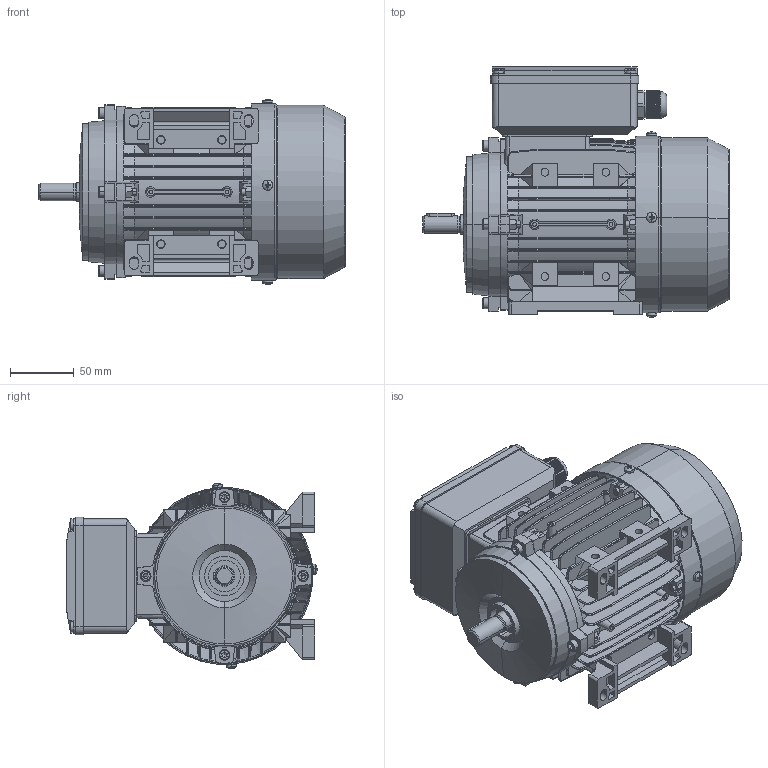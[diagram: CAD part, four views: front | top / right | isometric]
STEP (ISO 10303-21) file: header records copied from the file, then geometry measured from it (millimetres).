
FILE_DESCRIPTION (( 'STEP AP214' ), '1' );
FILE_NAME ('BMM0055.07C203.11.step', '2020-04-23T12:31:25', ( '' ), ( '' ), 'SwSTEP 2.0', 'SolidWorks 2019', '' );
FILE_SCHEMA (( 'AUTOMOTIVE_DESIGN' ));
Length unit declared in the file: millimetre
Products named in the file (1): BMM0055.07C203.11
Bounding box: 241 x 196.91 x 145.82 mm (x, y, z)
Volume: 645265.5 mm3; surface area: 505364.7 mm2
Topology: 35 solids, 35 shells, 3400 faces, 8887 edges, 5559 vertices
Faces by surface type: plane 1845, cylinder 960, cone 223, bspline 142, sphere 118, torus 112
Entity records: 119204 total; most frequent: CARTESIAN_POINT 37194, ORIENTED_EDGE 17610, DIRECTION 16158, EDGE_CURVE 8805, VERTEX_POINT 5559, AXIS2_PLACEMENT_3D 5507, VECTOR 5144, LINE 5144
